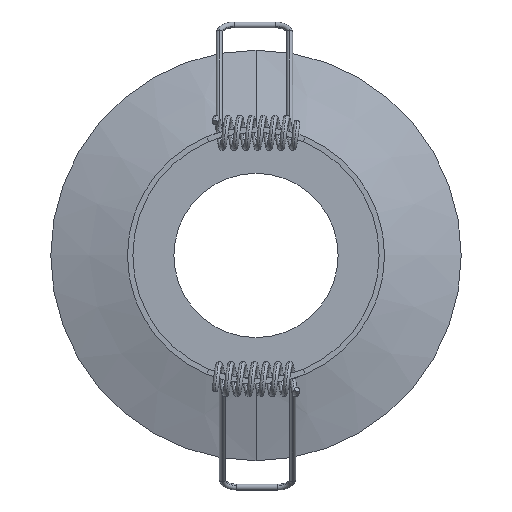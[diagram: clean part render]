
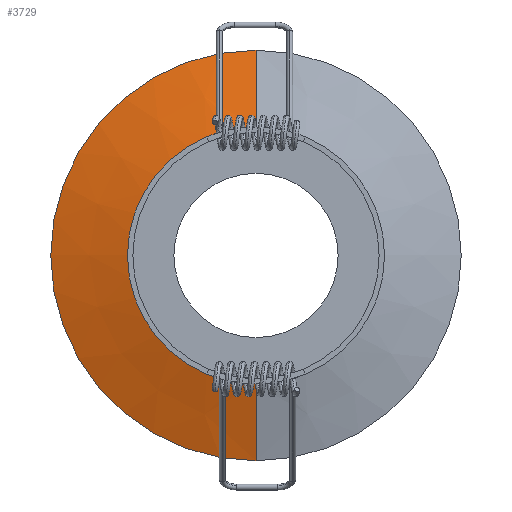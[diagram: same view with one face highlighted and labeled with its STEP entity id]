
A CAD part, front view. The second image highlights one B-rep face of the part: STEP entity #3729.
In plain terms, the highlighted conical face has half-angle 73 degrees and reference radius 35 mm.
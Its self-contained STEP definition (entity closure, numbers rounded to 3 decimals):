
#17 = EDGE_CURVE ( 'NONE', #3440, #1727, #2162, .T. ) ;
#159 = VERTEX_POINT ( 'NONE', #265 ) ;
#265 = CARTESIAN_POINT ( 'NONE',  ( -8.414, 12., -20.237 ) ) ;
#329 = CARTESIAN_POINT ( 'NONE',  ( 0., 12., -21.917 ) ) ;
#731 = VERTEX_POINT ( 'NONE', #2382 ) ;
#745 = CARTESIAN_POINT ( 'NONE',  ( 0., 12., 0. ) ) ;
#894 = CARTESIAN_POINT ( 'NONE',  ( 0., 16., -35. ) ) ;
#1116 = ORIENTED_EDGE ( 'NONE', *, *, #3061, .T. ) ;
#1137 = DIRECTION ( 'NONE',  ( 0., 1., 0. ) ) ;
#1193 = EDGE_LOOP ( 'NONE', ( #1276, #4014, #1116, #3420, #3317, #1522 ) ) ;
#1209 = DIRECTION ( 'NONE',  ( 0., 1., 0. ) ) ;
#1276 = ORIENTED_EDGE ( 'NONE', *, *, #2759, .F. ) ;
#1309 = DIRECTION ( 'NONE',  ( 0., 0.292, 0.956 ) ) ;
#1331 = LINE ( 'NONE', #1984, #1600 ) ;
#1480 = CARTESIAN_POINT ( 'NONE',  ( 0., 16., 0. ) ) ;
#1522 = ORIENTED_EDGE ( 'NONE', *, *, #2034, .F. ) ;
#1592 = CARTESIAN_POINT ( 'NONE',  ( 0., 12., 0. ) ) ;
#1600 = VECTOR ( 'NONE', #1309, 1000. ) ;
#1670 = CIRCLE ( 'NONE', #2978, 21.917 ) ;
#1727 = VERTEX_POINT ( 'NONE', #2647 ) ;
#1768 = VERTEX_POINT ( 'NONE', #2314 ) ;
#1773 = FACE_OUTER_BOUND ( 'NONE', #1193, .T. ) ;
#1979 = DIRECTION ( 'NONE',  ( 0., 0., -1. ) ) ;
#1984 = CARTESIAN_POINT ( 'NONE',  ( 0., 16., 35. ) ) ;
#2034 = EDGE_CURVE ( 'NONE', #731, #1768, #3864, .T. ) ;
#2037 = DIRECTION ( 'NONE',  ( 0., 0., 1. ) ) ;
#2088 = AXIS2_PLACEMENT_3D ( 'NONE', #1480, #2684, #2037 ) ;
#2123 = DIRECTION ( 'NONE',  ( 0., 0.292, -0.956 ) ) ;
#2162 = CIRCLE ( 'NONE', #2833, 21.917 ) ;
#2175 = CIRCLE ( 'NONE', #3425, 21.917 ) ;
#2314 = CARTESIAN_POINT ( 'NONE',  ( 0., 16., 35. ) ) ;
#2371 = DIRECTION ( 'NONE',  ( 0., 0., 1. ) ) ;
#2382 = CARTESIAN_POINT ( 'NONE',  ( 0., 16., -35. ) ) ;
#2463 = DIRECTION ( 'NONE',  ( 0., 0., 1. ) ) ;
#2647 = CARTESIAN_POINT ( 'NONE',  ( -8.414, 12., 20.237 ) ) ;
#2684 = DIRECTION ( 'NONE',  ( 0., 1., 0. ) ) ;
#2759 = EDGE_CURVE ( 'NONE', #3047, #731, #4004, .T. ) ;
#2780 = CONICAL_SURFACE ( 'NONE', #3954, 35., 1.274 ) ;
#2833 = AXIS2_PLACEMENT_3D ( 'NONE', #1592, #2917, #1979 ) ;
#2917 = DIRECTION ( 'NONE',  ( 0., -1., 0. ) ) ;
#2964 = DIRECTION ( 'NONE',  ( 0., 1., 0. ) ) ;
#2968 = VECTOR ( 'NONE', #2123, 1000. ) ;
#2978 = AXIS2_PLACEMENT_3D ( 'NONE', #3746, #1209, #2463 ) ;
#3047 = VERTEX_POINT ( 'NONE', #329 ) ;
#3061 = EDGE_CURVE ( 'NONE', #159, #1727, #1670, .T. ) ;
#3224 = EDGE_CURVE ( 'NONE', #3440, #1768, #1331, .T. ) ;
#3317 = ORIENTED_EDGE ( 'NONE', *, *, #3224, .T. ) ;
#3420 = ORIENTED_EDGE ( 'NONE', *, *, #17, .F. ) ;
#3425 = AXIS2_PLACEMENT_3D ( 'NONE', #745, #2964, #3515 ) ;
#3440 = VERTEX_POINT ( 'NONE', #3560 ) ;
#3515 = DIRECTION ( 'NONE',  ( 0., 0., 1. ) ) ;
#3560 = CARTESIAN_POINT ( 'NONE',  ( 0., 12., 21.917 ) ) ;
#3622 = EDGE_CURVE ( 'NONE', #3047, #159, #2175, .T. ) ;
#3729 = ADVANCED_FACE ( 'NONE', ( #1773 ), #2780, .T. ) ;
#3746 = CARTESIAN_POINT ( 'NONE',  ( 0., 12., 0. ) ) ;
#3864 = CIRCLE ( 'NONE', #2088, 35. ) ;
#3941 = CARTESIAN_POINT ( 'NONE',  ( 0., 16., 0. ) ) ;
#3954 = AXIS2_PLACEMENT_3D ( 'NONE', #3941, #1137, #2371 ) ;
#4004 = LINE ( 'NONE', #894, #2968 ) ;
#4014 = ORIENTED_EDGE ( 'NONE', *, *, #3622, .T. ) ;
